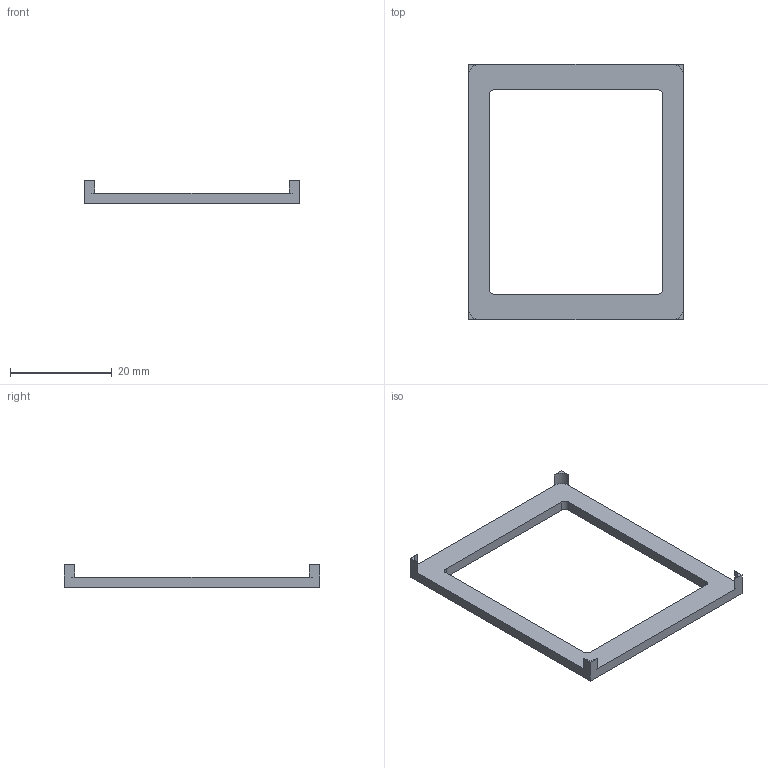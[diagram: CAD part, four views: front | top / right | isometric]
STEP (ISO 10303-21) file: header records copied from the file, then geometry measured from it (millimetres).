
FILE_DESCRIPTION(('Open CASCADE Model'),'2;1');
FILE_NAME('Open CASCADE Shape Model','2026-05-31T19:44:31',('Author'),( 'Open CASCADE'),'Open CASCADE STEP processor 7.6','Open CASCADE 7.6' ,'Unknown');
FILE_SCHEMA(('AP242_MANAGED_MODEL_BASED_3D_ENGINEERING_MIM_LF. {1 0 10303 442 1 1 4 }'));
Length unit declared in the file: millimetre
Products named in the file (1): Open CASCADE STEP translator 7.6 15
Bounding box: 42.1 x 50.1 x 4.5 mm (x, y, z)
Volume: 1493.9 mm3; surface area: 2218.9 mm2
Topology: 1 solids, 1 shells, 22 faces, 60 edges, 40 vertices
Faces by surface type: plane 14, cylinder 8
Entity records: 1530 total; most frequent: CARTESIAN_POINT 315, DIRECTION 230, LINE 148, VECTOR 148, ORIENTED_EDGE 120, PCURVE 120, DEFINITIONAL_REPRESENTATION 120, EDGE_CURVE 60
